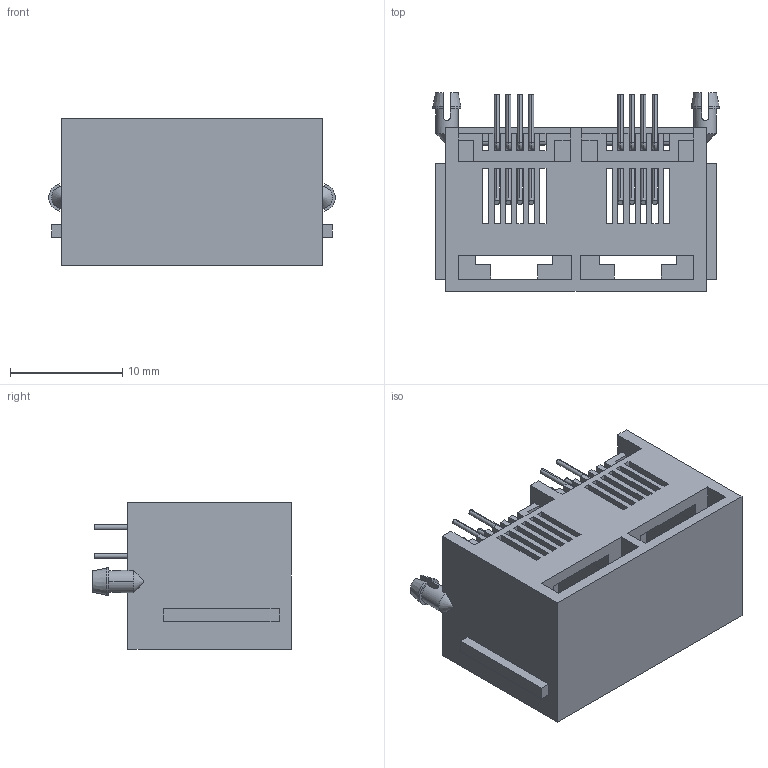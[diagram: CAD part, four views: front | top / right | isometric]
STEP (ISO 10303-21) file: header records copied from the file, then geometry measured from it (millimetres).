
FILE_DESCRIPTION((''),'2;1');
FILE_NAME('5521E1264_ASM','2026-04-17T11:08:48',('DGKYD'),(''),'CREO PARAMETRIC BY PTC INC, 2019010','CREO PARAMETRIC BY PTC INC, 2019010','');
FILE_SCHEMA(('CONFIG_CONTROL_DESIGN'));
Length unit declared in the file: millimetre
Products named in the file (10): MSBR-9; MSBR-8; MSBR-7; MSBR-6; MSBR-5; MSBR-4; MSBR-3; MSBR-2; MSBR-1; 5521E1264_ASM
Assembly tree (9 placements, depth 2):
  5521E1264_ASM
    MSBR-9
    MSBR-8
    MSBR-7
    MSBR-6
    MSBR-5
    MSBR-4
    MSBR-3
    MSBR-2
    MSBR-1
Bounding box: 25.5 x 17.7 x 13 mm (x, y, z)
Volume: 1658.9 mm3; surface area: 3788.2 mm2
Topology: 9 solids, 9 shells, 502 faces, 1426 edges, 908 vertices
Faces by surface type: plane 324, cylinder 124, torus 48, cone 6
Entity records: 16568 total; most frequent: CARTESIAN_POINT 3018, ORIENTED_EDGE 2852, DIRECTION 2768, EDGE_CURVE 1426, VECTOR 1094, LINE 1094, VERTEX_POINT 908, AXIS2_PLACEMENT_3D 837
